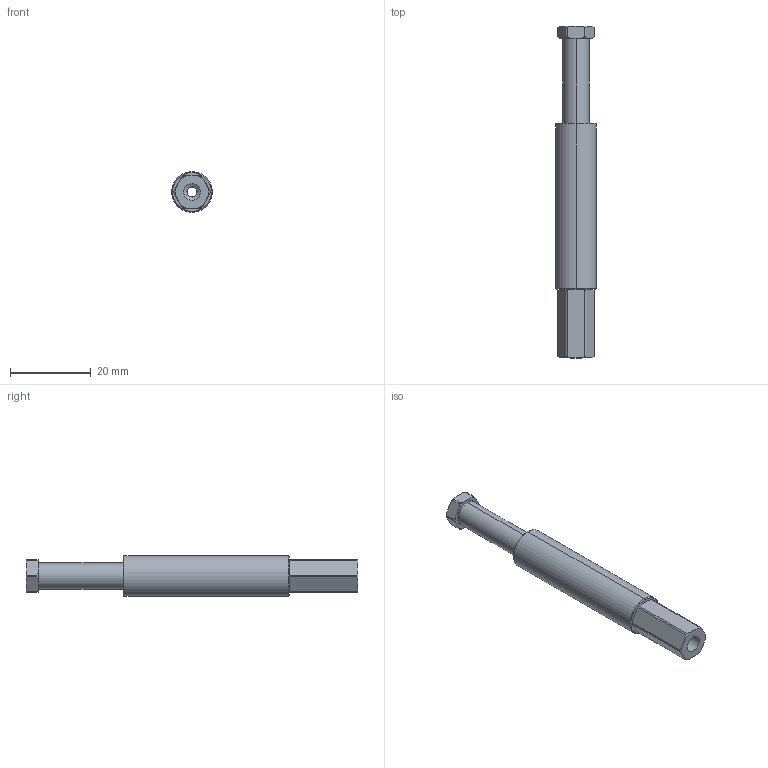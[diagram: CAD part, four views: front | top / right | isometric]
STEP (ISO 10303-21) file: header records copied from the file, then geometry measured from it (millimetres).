
FILE_DESCRIPTION (( 'STEP AP214' ), '1' );
FILE_NAME ('VFR1021-M5.STEP', '2019-11-15T05:55:10', ( '微软用户' ), ( '微软中国' ), 'SwSTEP 2.0', 'SolidWorks 2016', '' );
FILE_SCHEMA (( 'AUTOMOTIVE_DESIGN' ));
Length unit declared in the file: millimetre
Products named in the file (1): VFR1021-M5
Bounding box: 10 x 82 x 10 mm (x, y, z)
Volume: 3939.5 mm3; surface area: 5091 mm2
Topology: 3 solids, 3 shells, 132 faces, 324 edges, 204 vertices
Faces by surface type: cylinder 53, cone 46, plane 26, torus 4, bspline 3
Entity records: 6547 total; most frequent: CARTESIAN_POINT 2020, ORIENTED_EDGE 648, DIRECTION 624, EDGE_CURVE 324, AXIS2_PLACEMENT_3D 254, VERTEX_POINT 204, EDGE_LOOP 144, UNCERTAINTY_MEASURE_WITH_UNIT 137
